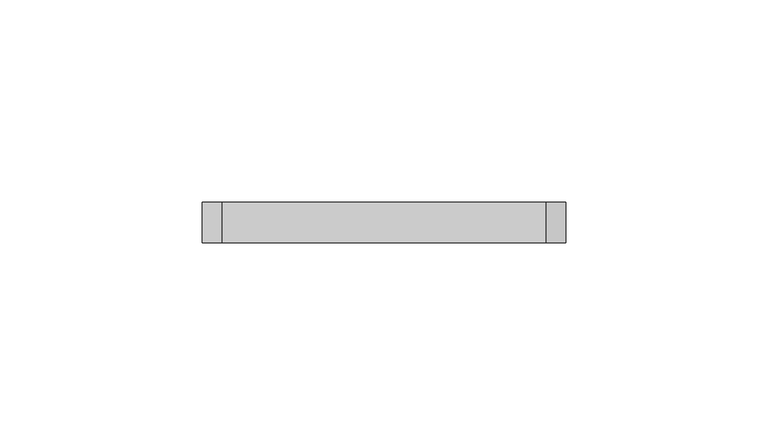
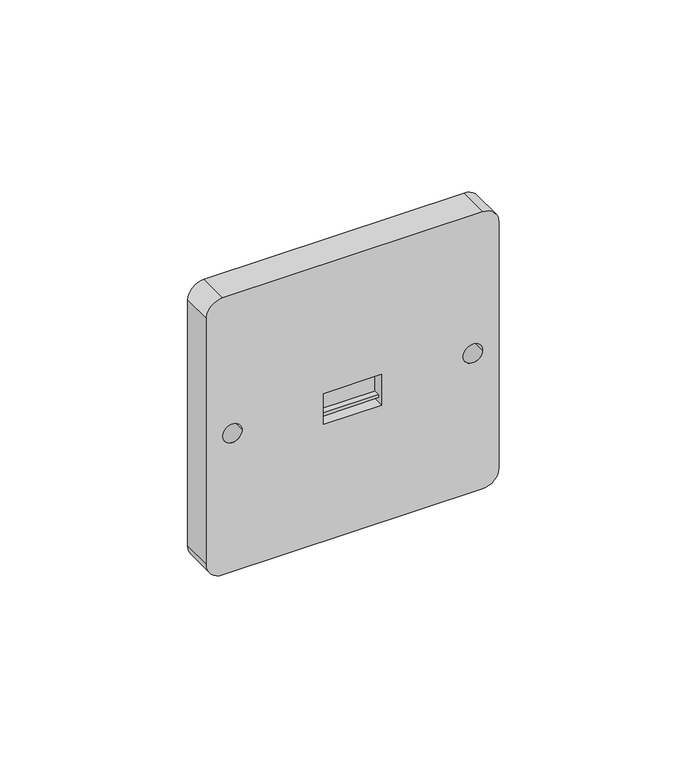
"""IFC4 building model written with IfcOpenShell, lengths in millimetres: proxy geometry, BIMHealth-Electrical_Data_Point-Non_Wall_Hosted-LOD2A-v1 : BIMHealth-Electrical_Data_Point-Non_Wall_Hosted-LOD2A-v1."""

from ifc_helpers import new_model, si_unit, point, frame, frame_2d, origin, place, context, project, spatial, polyline, circle_curve, trimmed, segment, composite_curve, outline, extrude, source, transform, mapped, element, save


def electrical_fixtures_e3963cad(model_context):
    return source(origin(), model_context, "Body", "SweptSolid", [
        extrude(outline(composite_curve([segment(trimmed(circle_curve(frame_2d((835.0, -40.0)), 5.0), [point((840.0, -40.0))], [point((835.0, -45.0))], False, "CARTESIAN"), True, "CONTINUOUS"), segment(polyline([(835.0, -45.0), (755.0, -45.0)]), True, "CONTINUOUS"), segment(trimmed(circle_curve(frame_2d((755.0, -40.0)), 5.0), [point((755.0, -45.0))], [point((750.0, -40.0))], False, "CARTESIAN"), True, "CONTINUOUS"), segment(polyline([(750.0, -40.0), (750.0, 40.0)]), True, "CONTINUOUS"), segment(trimmed(circle_curve(frame_2d((755.0, 40.0)), 5.0), [point((750.0, 40.0))], [point((755.0, 45.0))], False, "CARTESIAN"), True, "CONTINUOUS"), segment(polyline([(755.0, 45.0), (835.0, 45.0)]), True, "CONTINUOUS"), segment(trimmed(circle_curve(frame_2d((835.0, 40.0)), 5.0), [point((835.0, 45.0))], [point((840.0, 40.0))], False, "CARTESIAN"), True, "CONTINUOUS"), segment(polyline([(840.0, 40.0), (840.0, -40.0)]), True, "CONTINUOUS")], self_intersect=False), holes=[composite_curve([segment(trimmed(circle_curve(frame_2d((795.0, 37.0)), 3.0), [point((795.0, 40.0))], [point((795.0, 34.0))], True, "CARTESIAN"), True, "CONTINUOUS"), segment(trimmed(circle_curve(frame_2d((795.0, 37.0)), 3.0), [point((795.0, 34.0))], [point((795.0, 40.0))], True, "CARTESIAN"), True, "CONTINUOUS")], self_intersect=False), composite_curve([segment(trimmed(circle_curve(frame_2d((795.0, -37.0)), 3.0), [point((795.0, -40.0))], [point((795.0, -34.0))], True, "CARTESIAN"), True, "CONTINUOUS"), segment(trimmed(circle_curve(frame_2d((795.0, -37.0)), 3.0), [point((795.0, -34.0))], [point((795.0, -40.0))], True, "CARTESIAN"), True, "CONTINUOUS")], self_intersect=False), polyline([(798.0, -8.9142184), (798.0, 8.9142184), (788.0, 8.9142184), (788.0, -8.9142184), (798.0, -8.9142184)])]), frame((0.0, -10.0, 0.0), z_axis=(0.0, 1.0, 0.0), x_axis=(0.0, 0.0, 1.0)), (0.0, 0.0, 1.0), 10.0),
        extrude(outline(polyline([(-5.7604586, 789.7966565), (-8.7153408, 789.7966565), (-8.7153408, 790.7966565), (-6.7153408, 790.7966565), (-6.7153408, 798.0), (-5.7604586, 798.0), (-5.7604586, 789.7966565)])), frame((-8.9142184, 0.0, 0.0), z_axis=(1.0, 0.0, 0.0), x_axis=(0.0, 1.0, 0.0)), (0.0, 0.0, 1.0), 17.8284368),
    ])


if __name__ == "__main__":
    model = new_model("IFC4")
    model_context = context("Model", 3, world=origin())
    ifc_project = project(units=[si_unit("LENGTHUNIT", "METRE", prefix="MILLI")], contexts=[model_context])
    site = spatial("IfcSite", under=ifc_project)
    building = spatial("IfcBuilding", under=site)
    placement = place(None, origin())
    electrical_fixtures_shape = electrical_fixtures_e3963cad(model_context)
    element("IfcBuildingElementProxy", 1, Name="BIMHealth-Electrical_Data_Point-Non_Wall_Hosted-LOD2A-v1 : BIMHealth-Electrical_Data_Point-Non_Wall_Hosted-LOD2A-v1", ObjectType="BIMHealth-Electrical_Data_Point-Non_Wall_Hosted-LOD2A-v1 : BIMHealth-Electrical_Data_Point-Non_Wall_Hosted-LOD2A-v1", at=placement, inside=building, context=model_context, shape_type="MappedRepresentation", body=[
        mapped(electrical_fixtures_shape, transform((0.0, 0.0, 0.0), x_axis=(1.0, 0.0, 0.0), y_axis=(0.0, 1.0, 0.0), z_axis=(0.0, 0.0, 1.0))),
    ])
    save(model, "model.ifc")
